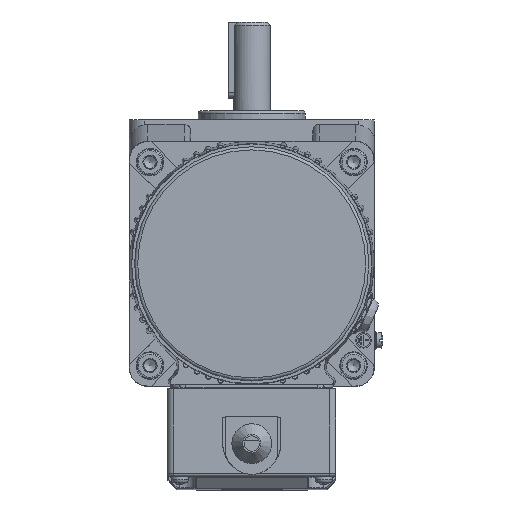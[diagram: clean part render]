
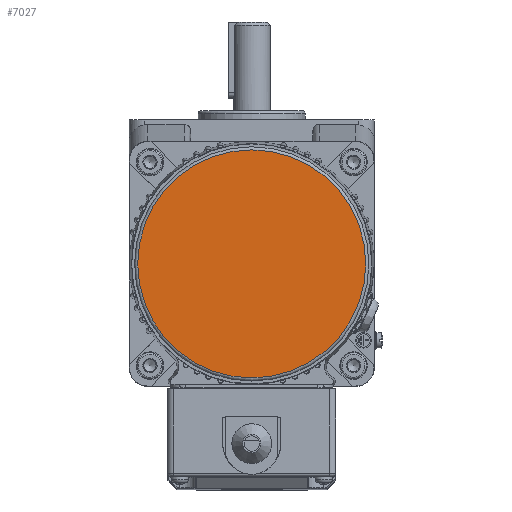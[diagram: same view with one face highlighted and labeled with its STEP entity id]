
A CAD part, left-side view. The second image highlights one B-rep face of the part: STEP entity #7027.
In plain terms, the highlighted planar face has unit normal (-1, 0, 0).
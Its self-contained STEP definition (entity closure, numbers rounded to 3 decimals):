
#2374=FACE_OUTER_BOUND('',#9964,.T.);
#7027=ADVANCED_FACE('',(#2374),#8130,.F.);
#8130=PLANE('',#26391);
#9964=EDGE_LOOP('',(#14133));
#14133=ORIENTED_EDGE('',*,*,#21459,.T.);
#18782=VERTEX_POINT('',#39182);
#21459=EDGE_CURVE('',#18782,#18782,#24442,.T.);
#24442=CIRCLE('',#26113,37.25);
#26113=AXIS2_PLACEMENT_3D('',#39181,#30159,#30160);
#26391=AXIS2_PLACEMENT_3D('',#47689,#30792,#30793);
#30159=DIRECTION('',(-1.,0.,0.));
#30160=DIRECTION('',(0.,0.,-1.));
#30792=DIRECTION('',(1.,0.,0.));
#30793=DIRECTION('',(0.,0.,-1.));
#39181=CARTESIAN_POINT('',(-86.,40.,40.));
#39182=CARTESIAN_POINT('',(-86.,40.,2.75));
#47689=CARTESIAN_POINT('',(-86.,40.,78.25));
